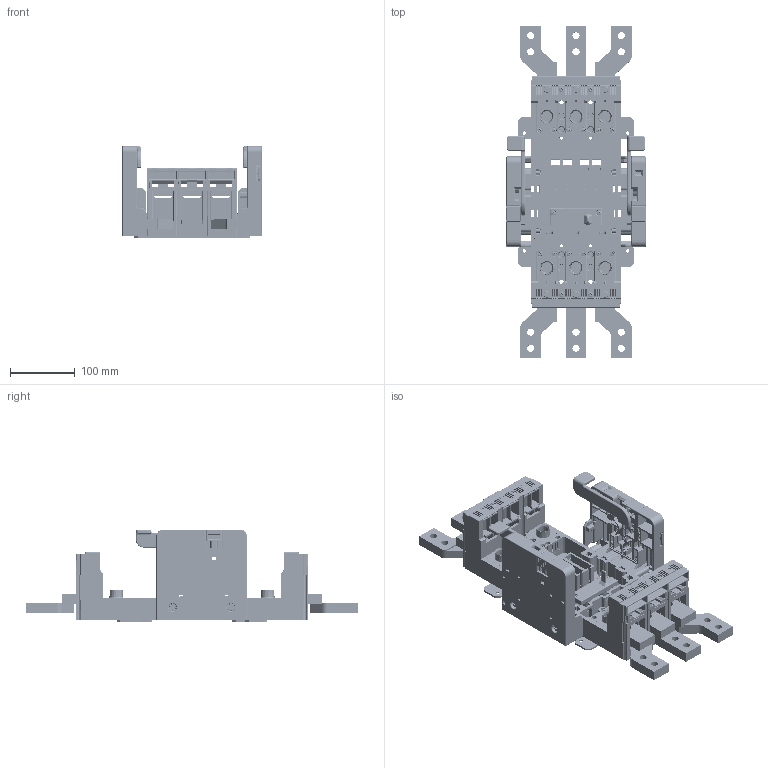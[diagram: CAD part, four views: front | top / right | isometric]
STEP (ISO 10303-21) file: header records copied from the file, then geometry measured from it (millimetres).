
FILE_DESCRIPTION (( 'STEP AP214' ), '1' );
FILE_NAME ('ZV-BH-0630-300__CS-BH-JX75__OD-BHD-MS75.step', '2011-09-07T08:39:27', ( 'Radek Veselý' ), ( 'Siemens and Partners' ), 'SwSTEP 2.0', 'SolidWorks 2006303', '' );
FILE_SCHEMA (( 'AUTOMOTIVE_DESIGN' ));
Length unit declared in the file: millimetre
Products named in the file (1): ZV-BH-0630-300__CS-BH-JX75__OD-BHD-MS75
Bounding box: 215 x 513 x 143 mm (x, y, z)
Volume: 1916056 mm3; surface area: 1027550.7 mm2
Topology: 62 solids, 62 shells, 9550 faces, 25319 edges, 15930 vertices
Faces by surface type: plane 5862, cylinder 2718, torus 332, cone 236, sphere 222, bspline 180
Entity records: 403345 total; most frequent: CARTESIAN_POINT 61783, ORIENTED_EDGE 50134, DIRECTION 48141, EDGE_CURVE 25067, VECTOR 17849, LINE 17849, VERTEX_POINT 15930, AXIS2_PLACEMENT_3D 15146
